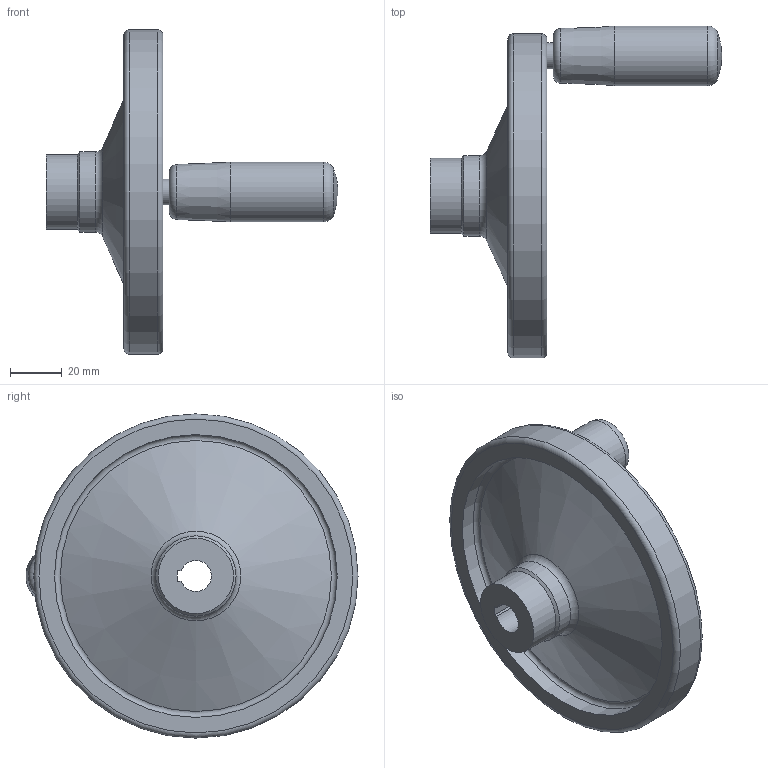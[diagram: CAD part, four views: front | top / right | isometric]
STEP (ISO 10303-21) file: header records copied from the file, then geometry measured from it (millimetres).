
FILE_DESCRIPTION( ( 'STEP AP203' ), '1' );
FILE_NAME( 'C:/Temp/Ganter_Step_05_03_2020/data/1_3/gn_321_5/gn_321_5_d/gn_321_5_d_zi/Safety handwheel GN 321.5-125-K12-D-ZI.stp', '2020-03-05T10:42:42', ( 'License CC BY-ND 4.0' ), ( 'CADENAS' ), ' ', 'PARTsolutions', ' ' );
FILE_SCHEMA( ( 'CONFIG_CONTROL_DESIGN' ) );
Length unit declared in the file: millimetre
Products named in the file (1): _Safety handwheel GN 321.5-125-K12-D-ZI
Bounding box: 112.5 x 128 x 125 mm (x, y, z)
Volume: 145694.2 mm3; surface area: 44507.9 mm2
Topology: 1 solids, 1 shells, 31 faces, 61 edges, 36 vertices
Faces by surface type: cylinder 9, plane 9, torus 7, cone 5, sphere 1
Full cylindrical faces by diameter (mm): 10 x1, 23 x1, 29 x2, 31 x1, 92 x1, 109 x1, 125 x1
Entity records: 720 total; most frequent: DIRECTION 130, CARTESIAN_POINT 105, ORIENTED_EDGE 76, AXIS2_PLACEMENT_3D 60, EDGE_LOOP 58, FACE_OUTER_BOUND 46, EDGE_CURVE 38, VERTEX_POINT 35
